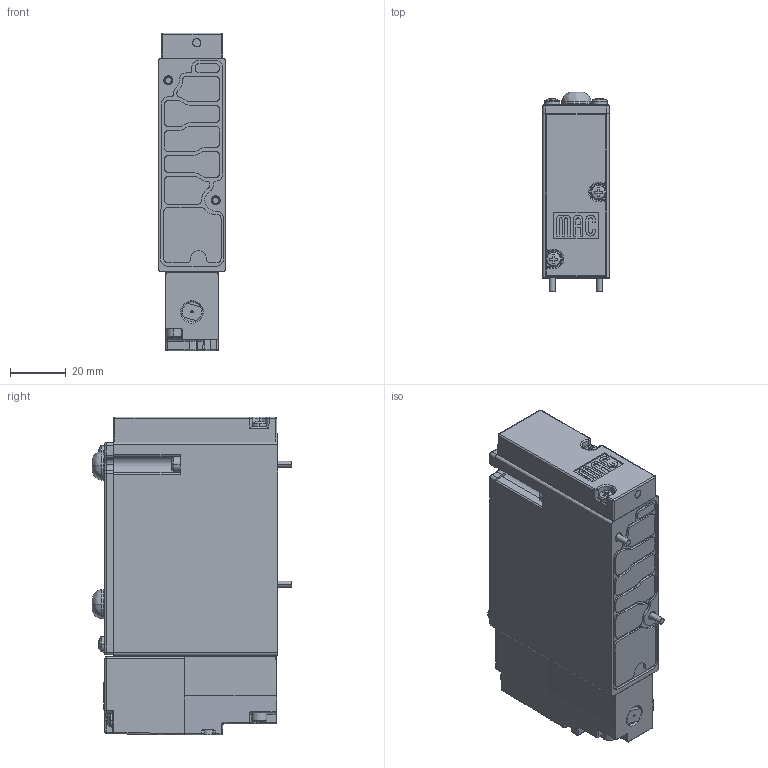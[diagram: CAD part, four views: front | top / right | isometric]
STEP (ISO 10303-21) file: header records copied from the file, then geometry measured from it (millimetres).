
FILE_DESCRIPTION (( 'STEP AP214' ), '1' );
FILE_NAME ('92A-AAA-000-DM-DXXP-1DM.STEP', '2019-08-09T12:54:45', ( '' ), ( '' ), 'SwSTEP 2.0', 'SolidWorks 2014', '' );
FILE_SCHEMA (( 'AUTOMOTIVE_DESIGN' ));
Length unit declared in the file: inch
Products named in the file (5): 92A-AAA-000-DM-DXXP-1DM; 92-PILOT-DM; 92-BODY-AAA; 92-OVERRIDE-1; 92-OPERATOR-DXXP-YDM
Assembly tree (4 placements, depth 2):
  92A-AAA-000-DM-DXXP-1DM
    92-BODY-AAA
    92-PILOT-DM
    92-OPERATOR-DXXP-YDM
    92-OVERRIDE-1
Bounding box: 24 x 71.6 x 114 mm (x, y, z)
Volume: 136626.8 mm3; surface area: 43286.3 mm2
Topology: 18 solids, 27 shells, 1770 faces, 4561 edges, 2952 vertices
Faces by surface type: plane 834, cylinder 585, cone 184, bspline 161, torus 4, sphere 2
Entity records: 83375 total; most frequent: CARTESIAN_POINT 17362, ORIENTED_EDGE 9106, DIRECTION 8566, EDGE_CURVE 4555, AXIS2_PLACEMENT_3D 2966, VERTEX_POINT 2952, LINE 2634, VECTOR 2634
